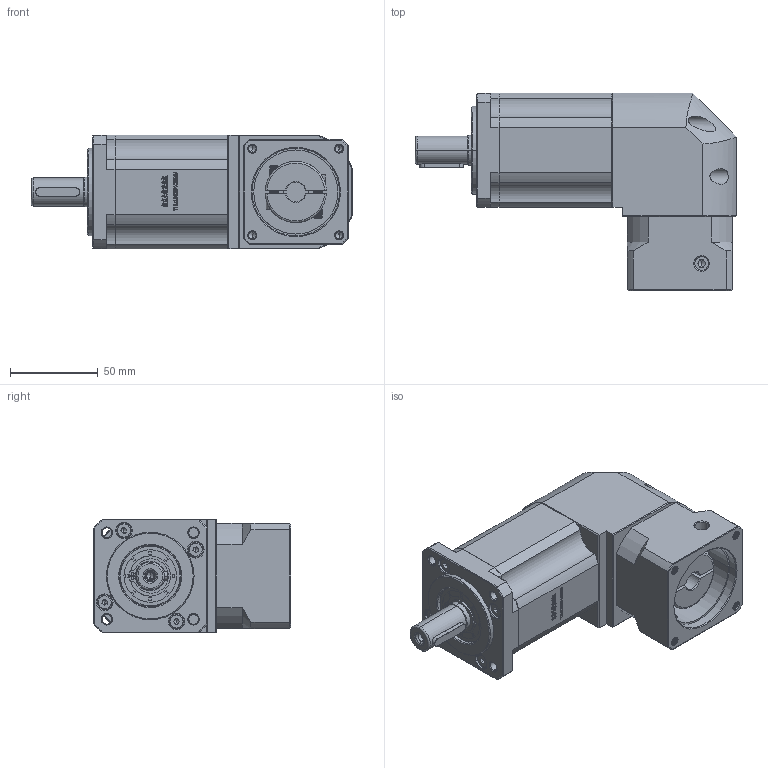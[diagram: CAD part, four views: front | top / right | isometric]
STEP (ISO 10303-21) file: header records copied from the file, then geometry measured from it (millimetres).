
FILE_DESCRIPTION (( 'STEP AP214' ), '1' );
FILE_NAME ('ZBR60-D16-L3-11-50-70-M5.STEP', '2022-04-19T08:28:54', ( '' ), ( 'Microsoft' ), 'SwSTEP 2.0', 'SolidWorks 2016', '' );
FILE_SCHEMA (( 'AUTOMOTIVE_DESIGN' ));
Length unit declared in the file: millimetre
Products named in the file (1): ZBR60-D16-L3-11-50-70-M5
Bounding box: 183.5 x 112.7 x 65 mm (x, y, z)
Volume: 648130.1 mm3; surface area: 85974.7 mm2
Topology: 5 solids, 5 shells, 2843 faces, 7713 edges, 5006 vertices
Faces by surface type: plane 1472, bspline 579, cylinder 432, cone 328, torus 32
Entity records: 155163 total; most frequent: CARTESIAN_POINT 56541, ORIENTED_EDGE 15366, DIRECTION 11723, EDGE_CURVE 7683, LINE 5059, VECTOR 5059, VERTEX_POINT 5006, AXIS2_PLACEMENT_3D 3332
